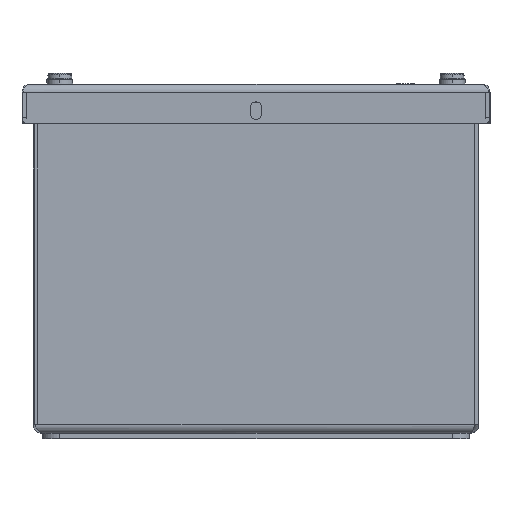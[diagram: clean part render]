
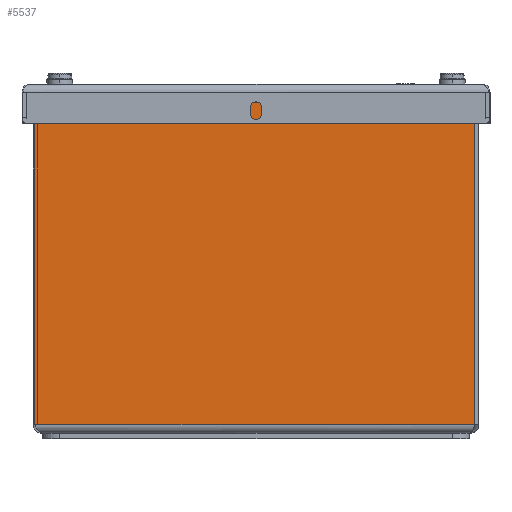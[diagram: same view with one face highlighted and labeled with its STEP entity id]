
A CAD part, left-side view. The second image highlights one B-rep face of the part: STEP entity #5537.
In plain terms, the highlighted planar face has unit normal (-1, 0, 0).
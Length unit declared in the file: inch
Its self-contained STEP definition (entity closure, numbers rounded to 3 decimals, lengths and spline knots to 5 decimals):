
#261=DIRECTION('',(0.,-1.,0.));
#262=VECTOR('',#261,6.168);
#263=CARTESIAN_POINT('',(0.,6.228,0.12));
#264=LINE('',#263,#262);
#1623=DIRECTION('',(0.,-1.,0.));
#1624=VECTOR('',#1623,5.47175);
#1625=CARTESIAN_POINT('',(0.,6.228,4.638));
#1626=LINE('',#1625,#1624);
#1707=DIRECTION('',(0.,0.,1.));
#1708=VECTOR('',#1707,4.518);
#1709=CARTESIAN_POINT('',(0.,6.228,0.12));
#1710=LINE('',#1709,#1708);
#1714=DIRECTION('',(0.,0.,1.));
#1715=VECTOR('',#1714,0.042);
#1716=CARTESIAN_POINT('',(0.,0.75625,4.638));
#1717=LINE('',#1716,#1715);
#1721=DIRECTION('',(0.,1.,0.));
#1722=VECTOR('',#1721,0.65125);
#1723=CARTESIAN_POINT('',(0.,0.105,4.68));
#1724=LINE('',#1723,#1722);
#1728=CARTESIAN_POINT('',(0.,0.105,4.635));
#1729=DIRECTION('',(-1.,0.,0.));
#1730=DIRECTION('',(0.,-1.,0.));
#1731=AXIS2_PLACEMENT_3D('',#1728,#1729,#1730);
#1778=DIRECTION('',(0.,0.,1.));
#1779=VECTOR('',#1778,4.515);
#1780=CARTESIAN_POINT('',(0.,0.06,0.12));
#1781=LINE('',#1780,#1779);
#3467=CARTESIAN_POINT('',(0.,0.75625,4.638));
#3468=CARTESIAN_POINT('',(0.,0.75625,4.68));
#3469=VERTEX_POINT('',#3467);
#3470=VERTEX_POINT('',#3468);
#3595=CARTESIAN_POINT('',(0.,6.228,0.12));
#3596=CARTESIAN_POINT('',(0.,6.228,4.638));
#3597=VERTEX_POINT('',#3595);
#3598=VERTEX_POINT('',#3596);
#3643=CARTESIAN_POINT('',(0.,0.06,4.635));
#3644=CARTESIAN_POINT('',(0.,0.105,4.68));
#3645=VERTEX_POINT('',#3643);
#3646=VERTEX_POINT('',#3644);
#3651=CARTESIAN_POINT('',(0.,0.06,0.12));
#3652=VERTEX_POINT('',#3651);
#5519=CARTESIAN_POINT('',(0.,6.25,0.));
#5520=DIRECTION('',(-1.,0.,0.));
#5521=DIRECTION('',(0.,-1.,0.));
#5522=AXIS2_PLACEMENT_3D('',#5519,#5520,#5521);
#5523=PLANE('',#5522);
#5524=ORIENTED_EDGE('',*,*,#5104,.T.);
#5525=ORIENTED_EDGE('',*,*,#5509,.T.);
#5527=ORIENTED_EDGE('',*,*,#5526,.T.);
#5529=ORIENTED_EDGE('',*,*,#5528,.F.);
#5531=ORIENTED_EDGE('',*,*,#5530,.F.);
#5533=ORIENTED_EDGE('',*,*,#5532,.F.);
#5534=ORIENTED_EDGE('',*,*,#4047,.F.);
#5535=EDGE_LOOP('',(#5524,#5525,#5527,#5529,#5531,#5533,#5534));
#5536=FACE_OUTER_BOUND('',#5535,.F.);
#1732=CIRCLE('',#1731,0.045);
#4047=EDGE_CURVE('',#3597,#3652,#264,.T.);
#5104=EDGE_CURVE('',#3597,#3598,#1710,.T.);
#5509=EDGE_CURVE('',#3598,#3469,#1626,.T.);
#5526=EDGE_CURVE('',#3469,#3470,#1717,.T.);
#5528=EDGE_CURVE('',#3646,#3470,#1724,.T.);
#5530=EDGE_CURVE('',#3645,#3646,#1732,.T.);
#5532=EDGE_CURVE('',#3652,#3645,#1781,.T.);
#5537=ADVANCED_FACE('',(#5536),#5523,.T.);
